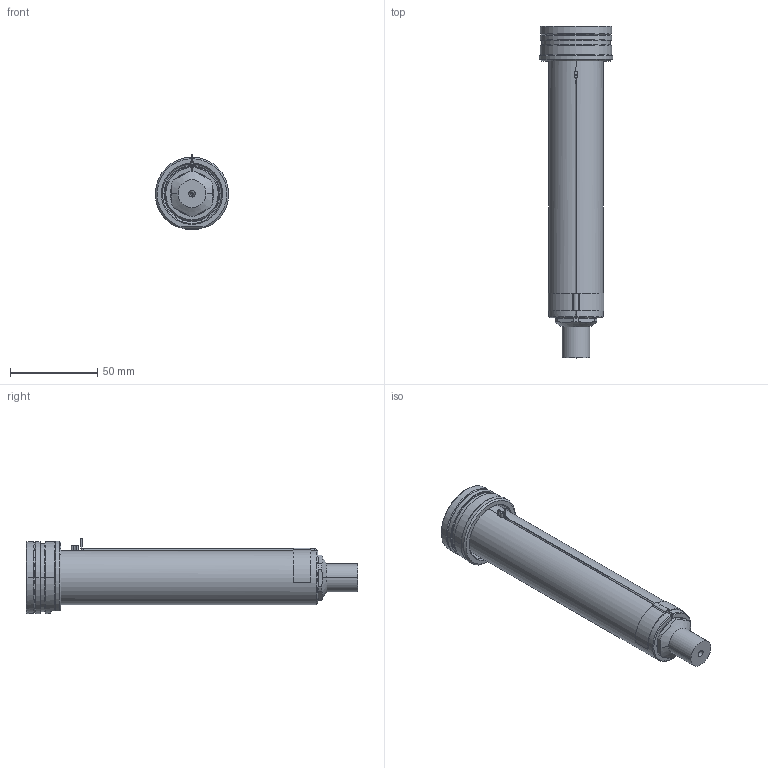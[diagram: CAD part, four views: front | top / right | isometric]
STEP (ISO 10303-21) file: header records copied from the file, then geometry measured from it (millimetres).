
FILE_DESCRIPTION((''),'2;1');
FILE_NAME('EO12_PG-FBE_WR_160_SW','2024-02-19T12:05:30',('sundharh'),(''),'CREO PARAMETRIC BY PTC INC, 2023154','CREO PARAMETRIC BY PTC INC, 2023154','');
FILE_SCHEMA(('CONFIG_CONTROL_DESIGN'));
Length unit declared in the file: millimetre
Products named in the file (1): EO12_PG-FBE_WR_160_SW
Bounding box: 41.85 x 190 x 43 mm (x, y, z)
Volume: 121937.5 mm3; surface area: 33279.8 mm2
Topology: 2 solids, 3 shells, 219 faces, 577 edges, 354 vertices
Faces by surface type: cylinder 82, plane 59, cone 45, torus 27, sphere 3, bspline 3
Entity records: 7869 total; most frequent: CARTESIAN_POINT 2328, DIRECTION 1229, ORIENTED_EDGE 1142, EDGE_CURVE 571, AXIS2_PLACEMENT_3D 517, VERTEX_POINT 354, CIRCLE 301, EDGE_LOOP 237
